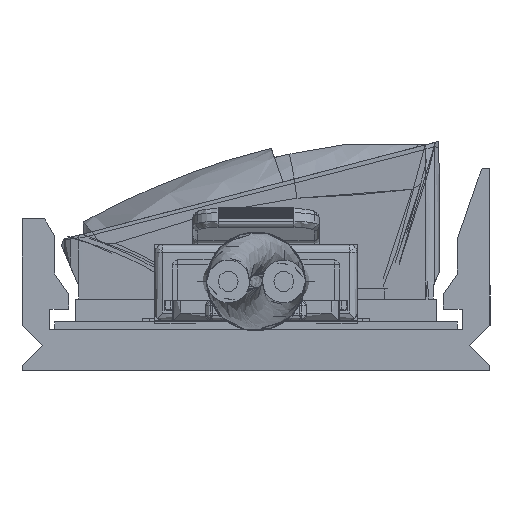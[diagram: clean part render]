
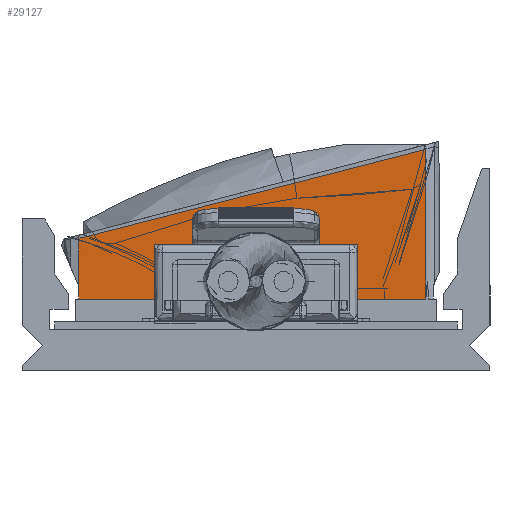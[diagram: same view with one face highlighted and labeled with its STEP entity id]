
A CAD part, left-side view. The second image highlights one B-rep face of the part: STEP entity #29127.
In plain terms, the highlighted free-form (B-spline) face has degree [1, 3] with [2, 4] control points.
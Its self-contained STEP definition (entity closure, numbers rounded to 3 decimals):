
#1943 = VERTEX_POINT ( 'NONE', #52393 ) ;
#4048 = CARTESIAN_POINT ( 'NONE',  ( 134.989, -8.233, 1.5 ) ) ;
#7154 = B_SPLINE_CURVE_WITH_KNOTS ( 'NONE', 3,
 ( #103606, #104002, #94887, #4048 ),
 .UNSPECIFIED., .F., .F.,
 ( 4, 4 ),
 ( 0., 1. ),
 .UNSPECIFIED. ) ;
#7650 = ORIENTED_EDGE ( 'NONE', *, *, #40603, .T. ) ;
#9034 = CARTESIAN_POINT ( 'NONE',  ( 136.531, 5.434, 6.908 ) ) ;
#10726 = CARTESIAN_POINT ( 'NONE',  ( 136.531, 5.434, 6.908 ) ) ;
#13071 = CARTESIAN_POINT ( 'NONE',  ( 134.96, -8.23, 8.181 ) ) ;
#13957 = VERTEX_POINT ( 'NONE', #102433 ) ;
#17178 = CARTESIAN_POINT ( 'NONE',  ( 136.532, 5.451, 6.914 ) ) ;
#20117 = B_SPLINE_SURFACE_WITH_KNOTS ( 'NONE', 1, 3, ( 
 ( #77630, #22986, #86777, #58522 ),
 ( #94365, #67692, #50500, #13071 ) ),
 .UNSPECIFIED., .F., .F., .F.,
 ( 2, 2 ),
 ( 4, 4 ),
 ( 0., 1. ),
 ( 0., 1. ),
 .UNSPECIFIED. ) ;
#21371 = VERTEX_POINT ( 'NONE', #29446 ) ;
#22986 = CARTESIAN_POINT ( 'NONE',  ( 136.067, 0.907, 1. ) ) ;
#25548 = ORIENTED_EDGE ( 'NONE', *, *, #64817, .T. ) ;
#25708 = VERTEX_POINT ( 'NONE', #9034 ) ;
#26459 = B_SPLINE_CURVE_WITH_KNOTS ( 'NONE', 3,
 ( #71825, #45084, #17178, #44291 ),
 .UNSPECIFIED., .F., .F.,
 ( 4, 4 ),
 ( 0., 1. ),
 .UNSPECIFIED. ) ;
#29127 = ADVANCED_FACE ( 'NONE', ( #61139 ), #20117, .T. ) ;
#29446 = CARTESIAN_POINT ( 'NONE',  ( 134.989, -8.233, 1.5 ) ) ;
#31591 = EDGE_CURVE ( 'NONE', #21371, #13957, #64494, .T. ) ;
#36754 = VERTEX_POINT ( 'NONE', #55746 ) ;
#36894 = CARTESIAN_POINT ( 'NONE',  ( 136.546, 5.483, 4.591 ) ) ;
#37491 = CARTESIAN_POINT ( 'NONE',  ( 134.992, -8.233, 1. ) ) ;
#39221 = ORIENTED_EDGE ( 'NONE', *, *, #31591, .T. ) ;
#39667 = VERTEX_POINT ( 'NONE', #64382 ) ;
#39679 = CARTESIAN_POINT ( 'NONE',  ( 136.067, 0.907, 1. ) ) ;
#40603 = EDGE_CURVE ( 'NONE', #1943, #25708, #26459, .T. ) ;
#43668 = VECTOR ( 'NONE', #58031, 1000. ) ;
#44291 = CARTESIAN_POINT ( 'NONE',  ( 136.531, 5.434, 6.908 ) ) ;
#44361 = ORIENTED_EDGE ( 'NONE', *, *, #61259, .T. ) ;
#45084 = CARTESIAN_POINT ( 'NONE',  ( 136.534, 5.468, 6.919 ) ) ;
#46181 = CARTESIAN_POINT ( 'NONE',  ( 136.067, 1.105, 5.798 ) ) ;
#46386 = EDGE_CURVE ( 'NONE', #39667, #1943, #92160, .T. ) ;
#47450 = CARTESIAN_POINT ( 'NONE',  ( 134.989, -8.233, 1.5 ) ) ;
#48842 = CARTESIAN_POINT ( 'NONE',  ( 135.54, -3.664, 1. ) ) ;
#50500 = CARTESIAN_POINT ( 'NONE',  ( 135.509, -3.661, 8.181 ) ) ;
#52063 = ORIENTED_EDGE ( 'NONE', *, *, #54454, .T. ) ;
#52393 = CARTESIAN_POINT ( 'NONE',  ( 136.536, 5.484, 6.925 ) ) ;
#54454 = EDGE_CURVE ( 'NONE', #25708, #106955, #114696, .T. ) ;
#55746 = CARTESIAN_POINT ( 'NONE',  ( 134.981, -8.232, 3.421 ) ) ;
#58031 = DIRECTION ( 'NONE',  ( -0.004, 0., 1. ) ) ;
#58522 = CARTESIAN_POINT ( 'NONE',  ( 134.992, -8.233, 1. ) ) ;
#61139 = FACE_OUTER_BOUND ( 'NONE', #99394, .T. ) ;
#61259 = EDGE_CURVE ( 'NONE', #36754, #21371, #7154, .T. ) ;
#64382 = CARTESIAN_POINT ( 'NONE',  ( 136.562, 5.482, 1. ) ) ;
#64494 = B_SPLINE_CURVE_WITH_KNOTS ( 'NONE', 3,
 ( #47450, #91697, #65831, #37491 ),
 .UNSPECIFIED., .F., .F.,
 ( 4, 4 ),
 ( 0., 0.001 ),
 .UNSPECIFIED. ) ;
#64817 = EDGE_CURVE ( 'NONE', #106955, #36754, #81245, .T. ) ;
#65253 = CARTESIAN_POINT ( 'NONE',  ( 135.006, -8.02, 3.451 ) ) ;
#65831 = CARTESIAN_POINT ( 'NONE',  ( 134.991, -8.233, 1.167 ) ) ;
#67692 = CARTESIAN_POINT ( 'NONE',  ( 136.036, 0.91, 8.181 ) ) ;
#71825 = CARTESIAN_POINT ( 'NONE',  ( 136.536, 5.484, 6.925 ) ) ;
#73309 = CARTESIAN_POINT ( 'NONE',  ( 135.006, -8.02, 3.451 ) ) ;
#75497 = B_SPLINE_CURVE_WITH_KNOTS ( 'NONE', 3,
 ( #102244, #48842, #39679, #76371 ),
 .UNSPECIFIED., .F., .F.,
 ( 4, 4 ),
 ( 0., 0.014 ),
 .UNSPECIFIED. ) ;
#76371 = CARTESIAN_POINT ( 'NONE',  ( 136.562, 5.482, 1. ) ) ;
#76751 = ORIENTED_EDGE ( 'NONE', *, *, #107115, .T. ) ;
#77252 = CARTESIAN_POINT ( 'NONE',  ( 135.006, -8.02, 3.451 ) ) ;
#77630 = CARTESIAN_POINT ( 'NONE',  ( 136.562, 5.482, 1. ) ) ;
#79939 = ORIENTED_EDGE ( 'NONE', *, *, #46386, .T. ) ;
#81245 = B_SPLINE_CURVE_WITH_KNOTS ( 'NONE', 3,
 ( #77252, #86796, #113822, #85998 ),
 .UNSPECIFIED., .F., .F.,
 ( 4, 4 ),
 ( 0., 1. ),
 .UNSPECIFIED. ) ;
#85998 = CARTESIAN_POINT ( 'NONE',  ( 134.981, -8.232, 3.421 ) ) ;
#86777 = CARTESIAN_POINT ( 'NONE',  ( 135.54, -3.665, 1. ) ) ;
#86796 = CARTESIAN_POINT ( 'NONE',  ( 134.999, -8.08, 3.436 ) ) ;
#91697 = CARTESIAN_POINT ( 'NONE',  ( 134.99, -8.233, 1.333 ) ) ;
#92160 = LINE ( 'NONE', #36894, #43668 ) ;
#94365 = CARTESIAN_POINT ( 'NONE',  ( 136.531, 5.485, 8.181 ) ) ;
#94887 = CARTESIAN_POINT ( 'NONE',  ( 134.987, -8.233, 2.14 ) ) ;
#99394 = EDGE_LOOP ( 'NONE', ( #7650, #52063, #25548, #44361, #39221, #76751, #79939 ) ) ;
#102244 = CARTESIAN_POINT ( 'NONE',  ( 134.992, -8.233, 1. ) ) ;
#102433 = CARTESIAN_POINT ( 'NONE',  ( 134.992, -8.233, 1. ) ) ;
#103606 = CARTESIAN_POINT ( 'NONE',  ( 134.981, -8.232, 3.421 ) ) ;
#104002 = CARTESIAN_POINT ( 'NONE',  ( 134.984, -8.232, 2.781 ) ) ;
#106955 = VERTEX_POINT ( 'NONE', #65253 ) ;
#107115 = EDGE_CURVE ( 'NONE', #13957, #39667, #75497, .T. ) ;
#109123 = CARTESIAN_POINT ( 'NONE',  ( 135.558, -3.379, 4.646 ) ) ;
#113822 = CARTESIAN_POINT ( 'NONE',  ( 134.991, -8.151, 3.426 ) ) ;
#114696 = B_SPLINE_CURVE_WITH_KNOTS ( 'NONE', 3,
 ( #10726, #46181, #109123, #73309 ),
 .UNSPECIFIED., .F., .F.,
 ( 4, 4 ),
 ( 0., 1. ),
 .UNSPECIFIED. ) ;
